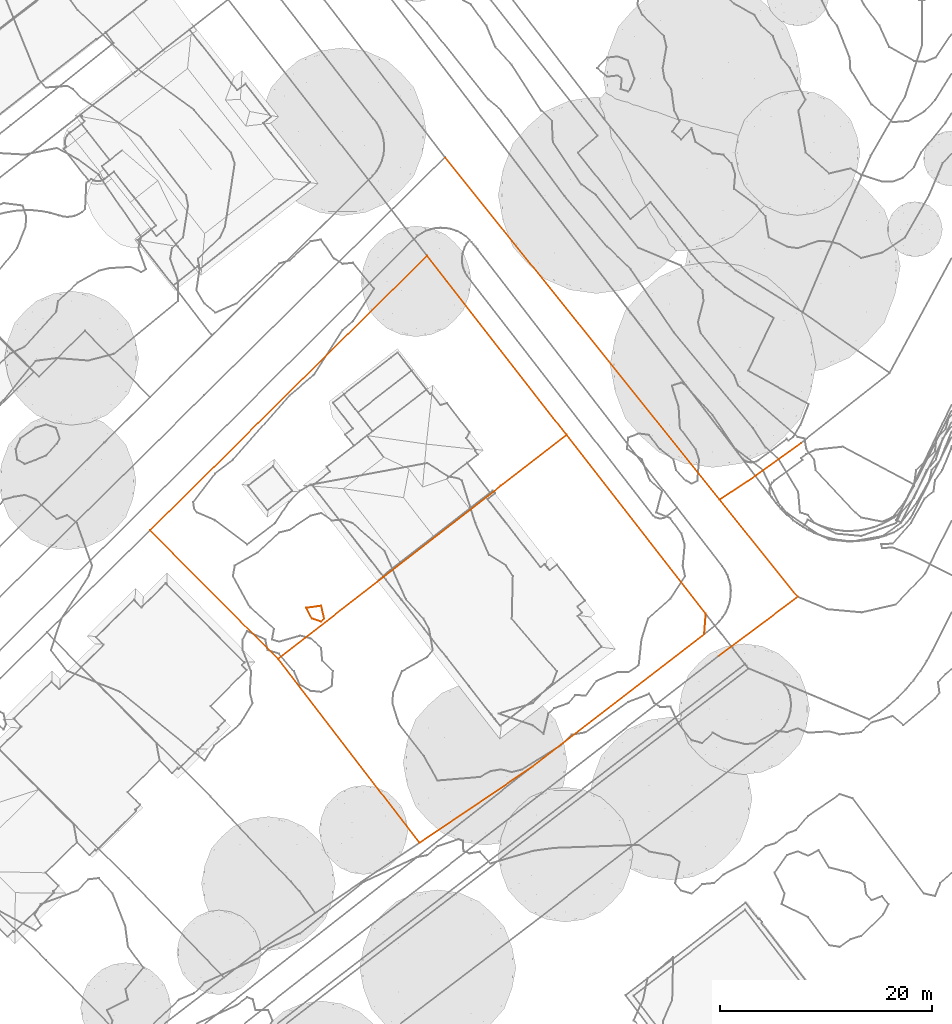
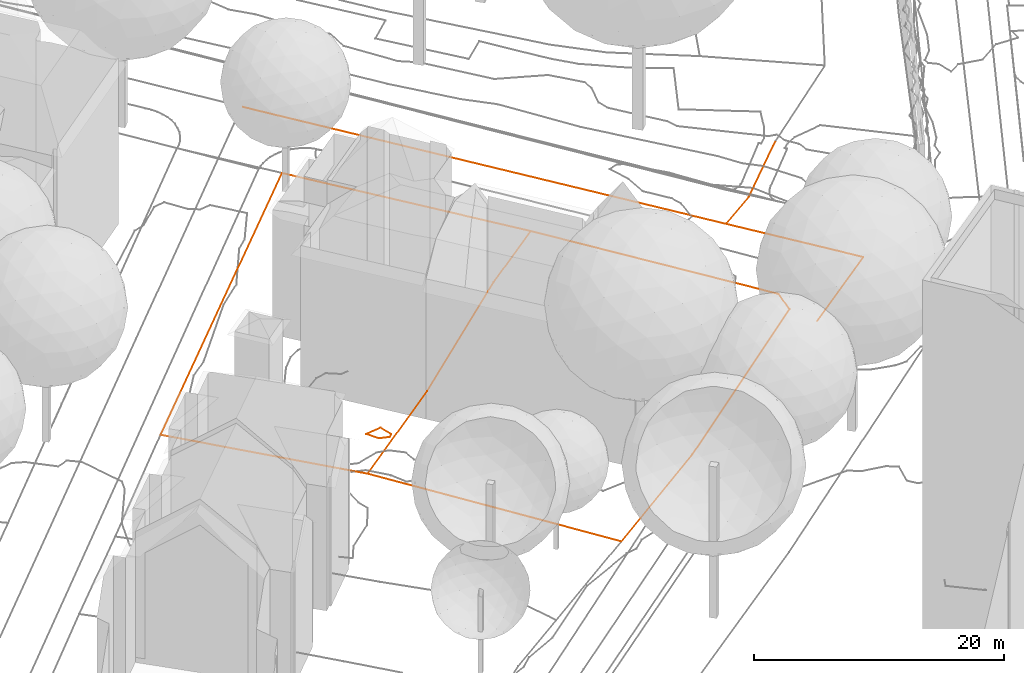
# Not in any storey, part 141 of 477: 5 civil elements, 3 geographic elements.
"""IFC4 model written with IfcOpenShell, lengths in metres."""

from ifc_helpers import new_model, entity, si_unit, frame, origin_with_axes, place, context, subcontext, project, spatial, element, save


model = new_model("IFC4")

# Units and contexts
model_context = context("Model", 3, precision=1e-05, world=origin_with_axes())
body_context = subcontext(model_context, "Body", "Model", "MODEL_VIEW")
ifc_project = project(units=[si_unit("AREAUNIT", "SQUARE_METRE"), si_unit("LENGTHUNIT", "METRE")], contexts=[model_context])

# Sites
site_1_placement = place(None, origin_with_axes())
site_1 = spatial("IfcSite", under=ifc_project, at=site_1_placement, Name="Topoexport Site")
site_2_placement = place(site_1_placement, origin_with_axes())
site_2 = spatial("IfcSite", under=site_1, at=site_2_placement, Name="TPX_ROADS")

# Civil elements
civil_element_1_placement = place(site_2_placement, frame((210.3727320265, 215.7657365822, 536.491), z_axis=(0.0, 0.0, 1.0), x_axis=(1.0, 0.0, 0.0)))
element("IfcCivilElement", 1, at=civil_element_1_placement, inside=site_2, Name="Road 68", ObjectType="ROAD", context=body_context, shape_type="GeometricCurveSet", body=[
    entity("IfcGeometricCurveSet", [entity("IfcIndexedPolyCurve", entity("IfcCartesianPointList3D", [[0.0, 0.0, 0.0], [25.9589999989, -32.3639990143, -0.881]]))]),
])
civil_element_2_placement = place(site_2_placement, frame((236.216732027, 168.6287380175, 535.141), z_axis=(0.0, 0.0, 1.0), x_axis=(1.0, 0.0, 0.0)))
element("IfcCivilElement", 2, at=civil_element_2_placement, inside=site_2, Name="Road 78", ObjectType="ROAD", context=body_context, shape_type="GeometricCurveSet", body=[
    entity("IfcGeometricCurveSet", [entity("IfcIndexedPolyCurve", entity("IfcCartesianPointList3D", [[0.0, 0.0, 0.0], [7.4890000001, 5.5799998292, 0.219]]))]),
])
civil_element_3_placement = place(site_2_placement, frame((239.7417320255, 185.6617375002, 535.675), z_axis=(0.0, 0.0, 1.0), x_axis=(1.0, 0.0, 0.0)))
element("IfcCivilElement", 3, at=civil_element_3_placement, inside=site_2, Name="Road 87", ObjectType="ROAD", context=body_context, shape_type="GeometricCurveSet", body=[
    entity("IfcGeometricCurveSet", [entity("IfcIndexedPolyCurve", entity("IfcCartesianPointList3D", [[4.2569999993, 3.083999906, 2.101], [0.0, 0.0, 0.0]]))]),
])
civil_element_4_placement = place(site_2_placement, frame((236.3317320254, 183.401737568, 535.61), z_axis=(0.0, 0.0, 1.0), x_axis=(1.0, 0.0, 0.0)))
element("IfcCivilElement", 4, at=civil_element_4_placement, inside=site_2, Name="Road 103", ObjectType="ROAD", context=body_context, shape_type="GeometricCurveSet", body=[
    entity("IfcGeometricCurveSet", [entity("IfcIndexedPolyCurve", entity("IfcCartesianPointList3D", [[0.0, 0.0, 0.0], [7.3740000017, -9.1929997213, -0.25]]))]),
])
civil_element_5_placement = place(site_2_placement, frame((236.3317320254, 183.401737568, 535.61), z_axis=(0.0, 0.0, 1.0), x_axis=(1.0, 0.0, 0.0)))
element("IfcCivilElement", 5, at=civil_element_5_placement, inside=site_2, Name="Road 141", ObjectType="ROAD", context=body_context, shape_type="GeometricCurveSet", body=[
    entity("IfcGeometricCurveSet", [entity("IfcIndexedPolyCurve", entity("IfcCartesianPointList3D", [[3.4100000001, 2.2599999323, 0.065], [0.0, 0.0, 0.0]]))]),
])

# Site
site_3_placement = place(site_1_placement, origin_with_axes())
site_3 = spatial("IfcSite", under=site_1, at=site_3_placement, Name="TPX_CADASTRES")

# Geographic elements
geographic_element_1_placement = place(site_3_placement, frame((194.6037320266, 168.3597160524, 534.9663254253), z_axis=(0.0, 0.0, 1.0), x_axis=(1.0, 0.0, 0.0)))
element("IfcGeographicElement", 6, at=geographic_element_1_placement, inside=site_3, Name="Cadastre 231", PredefinedType="NOTDEFINED", context=body_context, shape_type="GeometricCurveSet", body=[
    entity("IfcGeometricCurveSet", [entity("IfcIndexedPolyCurve", entity("IfcCartesianPointList3D", [[0.0, 0.0, 0.0], [9.929, 7.703, -0.0684706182], [21.0470000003, 16.3360000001, 1.4044976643], [27.2549999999, 21.1570000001, 1.2929860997], [40.4040000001, 4.277, 0.7869771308], [40.25, 2.307, 0.5652456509], [24.0660000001, -10.1680000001, -0.4134451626], [13.3659999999, -17.3799999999, -0.7353037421], [0.0, 0.0, 0.0]]))]),
])
geographic_element_2_placement = place(site_3_placement, frame((182.5057320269, 180.5107160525, 535.6275060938), z_axis=(0.0, 0.0, 1.0), x_axis=(1.0, 0.0, 0.0)))
element("IfcGeographicElement", 7, at=geographic_element_2_placement, inside=site_3, Name="Cadastre 232", PredefinedType="NOTDEFINED", context=body_context, shape_type="GeometricCurveSet", body=[
    entity("IfcGeometricCurveSet", [entity("IfcIndexedPolyCurve", entity("IfcCartesianPointList3D", [[0.0, 0.0, 0.0], [26.173, 25.926, 0.6430684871], [39.3529999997, 9.0060000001, 0.6318054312], [33.145, 4.1850000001, 0.7433169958], [22.0269999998, -4.4480000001, -0.7296512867], [12.0979999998, -12.1510000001, -0.6611806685], [0.0, 0.0, 0.0]]))]),
])

# Site
site_4_placement = place(site_1_placement, origin_with_axes())
site_4 = spatial("IfcSite", under=site_1, at=site_4_placement, Name="TPX_CONTOUR_LINES")

# Geographic element
geographic_element_3_placement = place(site_4_placement, frame((197.2601219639, 173.1707160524, 535.0), z_axis=(0.0, 0.0, 1.0), x_axis=(1.0, 0.0, 0.0)))
element("IfcGeographicElement", 8, at=geographic_element_3_placement, inside=site_4, Name="Contour Line 535.0 m", PredefinedType="NOTDEFINED", context=body_context, shape_type="GeometricCurveSet", body=[
    entity("IfcGeometricCurveSet", [entity("IfcIndexedPolyCurve", entity("IfcCartesianPointList3D", [[1.6979447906, -1.0, 0.0], [1.4176100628, -1.3006169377, 0.0], [0.5374786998, -1.0, 0.0], [0.0, 0.0, 0.0], [1.4176100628, 0.2048192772, 0.0], [1.6979447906, -1.0, 0.0]]))]),
])

save(model, "model.ifc")
